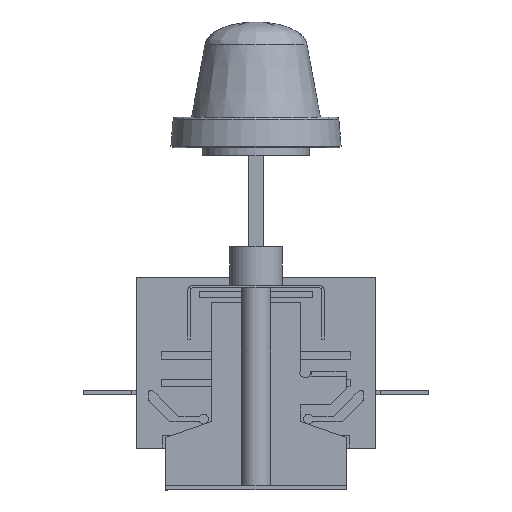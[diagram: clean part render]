
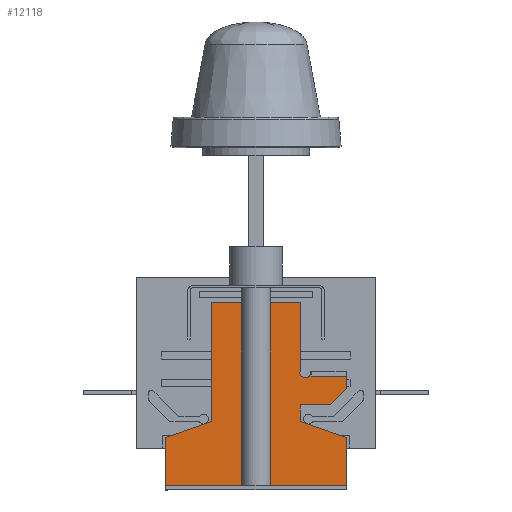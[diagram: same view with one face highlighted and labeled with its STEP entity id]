
A CAD part, left-side view. The second image highlights one B-rep face of the part: STEP entity #12118.
In plain terms, the highlighted planar face has unit normal (-1, 0, 0).
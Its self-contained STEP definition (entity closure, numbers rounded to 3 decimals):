
#229 = CARTESIAN_POINT ( 'NONE',  ( -57.263, 37.1, 21.5 ) ) ;
#266 = VERTEX_POINT ( 'NONE', #2958 ) ;
#305 = LINE ( 'NONE', #13591, #13586 ) ;
#435 = EDGE_CURVE ( 'NONE', #12203, #3188, #5823, .T. ) ;
#493 = DIRECTION ( 'NONE',  ( 0., 1., 0. ) ) ;
#607 = CARTESIAN_POINT ( 'NONE',  ( -57.263, -22.476, 48.8 ) ) ;
#729 = VERTEX_POINT ( 'NONE', #1036 ) ;
#736 = ORIENTED_EDGE ( 'NONE', *, *, #3151, .T. ) ;
#865 = DIRECTION ( 'NONE',  ( 0., 0., 1. ) ) ;
#1020 = VECTOR ( 'NONE', #2152, 1000. ) ;
#1026 = ORIENTED_EDGE ( 'NONE', *, *, #8765, .T. ) ;
#1036 = CARTESIAN_POINT ( 'NONE',  ( -57.263, -18.1, 48.8 ) ) ;
#1365 = DIRECTION ( 'NONE',  ( 0., 0.943, -0.333 ) ) ;
#1802 = EDGE_CURVE ( 'NONE', #14907, #12492, #14151, .T. ) ;
#1865 = AXIS2_PLACEMENT_3D ( 'NONE', #7023, #16035, #9621 ) ;
#2047 = DIRECTION ( 'NONE',  ( 0., -1., 0. ) ) ;
#2152 = DIRECTION ( 'NONE',  ( 0., -1., 0. ) ) ;
#2638 = VERTEX_POINT ( 'NONE', #3204 ) ;
#2644 = LINE ( 'NONE', #6204, #14310 ) ;
#2731 = VERTEX_POINT ( 'NONE', #9630 ) ;
#2844 = LINE ( 'NONE', #12965, #10108 ) ;
#2958 = CARTESIAN_POINT ( 'NONE',  ( -57.263, -18.1, 77.06 ) ) ;
#2979 = EDGE_CURVE ( 'NONE', #2731, #10522, #3650, .T. ) ;
#3051 = FACE_OUTER_BOUND ( 'NONE', #3451, .T. ) ;
#3131 = CARTESIAN_POINT ( 'NONE',  ( -57.263, -22.476, 48.8 ) ) ;
#3151 = EDGE_CURVE ( 'NONE', #12492, #10460, #12326, .T. ) ;
#3188 = VERTEX_POINT ( 'NONE', #607 ) ;
#3204 = CARTESIAN_POINT ( 'NONE',  ( -57.263, 37.1, 21.5 ) ) ;
#3259 = VECTOR ( 'NONE', #2047, 1000. ) ;
#3284 = CARTESIAN_POINT ( 'NONE',  ( -57.263, -18.1, 28.2 ) ) ;
#3291 = LINE ( 'NONE', #6433, #7337 ) ;
#3336 = CIRCLE ( 'NONE', #1865, 2.24 ) ;
#3446 = VECTOR ( 'NONE', #6906, 1000. ) ;
#3451 = EDGE_LOOP ( 'NONE', ( #6904, #10612, #13923, #15524, #12056, #14040, #16570, #7048, #6900, #14031, #736, #1026, #6586, #6189, #6843, #16645 ) ) ;
#3478 = DIRECTION ( 'NONE',  ( 0., 1., 0. ) ) ;
#3650 = LINE ( 'NONE', #13967, #13728 ) ;
#3718 = VERTEX_POINT ( 'NONE', #7696 ) ;
#3735 = CARTESIAN_POINT ( 'NONE',  ( -57.263, -20.288, 48.32 ) ) ;
#4273 = CARTESIAN_POINT ( 'NONE',  ( -57.263, 37.1, 2. ) ) ;
#4296 = DIRECTION ( 'NONE',  ( 0., 0., 1. ) ) ;
#4537 = DIRECTION ( 'NONE',  ( 0., 1., 0. ) ) ;
#4641 = LINE ( 'NONE', #13608, #7465 ) ;
#4817 = VECTOR ( 'NONE', #3478, 1000. ) ;
#5087 = VERTEX_POINT ( 'NONE', #8474 ) ;
#5174 = CARTESIAN_POINT ( 'NONE',  ( -57.263, -37.1, 41.8 ) ) ;
#5381 = DIRECTION ( 'NONE',  ( 0., 0., -1. ) ) ;
#5648 = DIRECTION ( 'NONE',  ( 0., 0., 1. ) ) ;
#5694 = VECTOR ( 'NONE', #865, 1000. ) ;
#5787 = CARTESIAN_POINT ( 'NONE',  ( -57.263, -37.1, 46.8 ) ) ;
#5823 = LINE ( 'NONE', #3131, #4817 ) ;
#6140 = VERTEX_POINT ( 'NONE', #12636 ) ;
#6189 = ORIENTED_EDGE ( 'NONE', *, *, #11738, .T. ) ;
#6204 = CARTESIAN_POINT ( 'NONE',  ( -57.263, -18.1, 48.8 ) ) ;
#6411 = EDGE_CURVE ( 'NONE', #10522, #2638, #3291, .T. ) ;
#6433 = CARTESIAN_POINT ( 'NONE',  ( -57.263, 18.1, 28.2 ) ) ;
#6586 = ORIENTED_EDGE ( 'NONE', *, *, #7620, .T. ) ;
#6596 = CARTESIAN_POINT ( 'NONE',  ( -57.263, -22.8, 48.8 ) ) ;
#6644 = VECTOR ( 'NONE', #4296, 1000. ) ;
#6843 = ORIENTED_EDGE ( 'NONE', *, *, #8396, .T. ) ;
#6900 = ORIENTED_EDGE ( 'NONE', *, *, #12575, .T. ) ;
#6904 = ORIENTED_EDGE ( 'NONE', *, *, #12249, .T. ) ;
#6906 = DIRECTION ( 'NONE',  ( 0., 0.943, 0.333 ) ) ;
#7023 = CARTESIAN_POINT ( 'NONE',  ( -57.263, -20.288, 48.32 ) ) ;
#7048 = ORIENTED_EDGE ( 'NONE', *, *, #12776, .T. ) ;
#7163 = VECTOR ( 'NONE', #4537, 1000. ) ;
#7337 = VECTOR ( 'NONE', #1365, 1000. ) ;
#7465 = VECTOR ( 'NONE', #493, 1000. ) ;
#7620 = EDGE_CURVE ( 'NONE', #5087, #3718, #11910, .T. ) ;
#7696 = CARTESIAN_POINT ( 'NONE',  ( -57.263, -30.7, 35. ) ) ;
#7819 = EDGE_CURVE ( 'NONE', #729, #266, #2644, .T. ) ;
#7867 = LINE ( 'NONE', #12582, #1020 ) ;
#8279 = EDGE_CURVE ( 'NONE', #266, #2731, #4641, .T. ) ;
#8396 = EDGE_CURVE ( 'NONE', #11173, #6140, #10082, .T. ) ;
#8474 = CARTESIAN_POINT ( 'NONE',  ( -57.263, -18.1, 35. ) ) ;
#8590 = CARTESIAN_POINT ( 'NONE',  ( -57.263, -37.1, 0. ) ) ;
#8680 = VECTOR ( 'NONE', #5381, 1000. ) ;
#8765 = EDGE_CURVE ( 'NONE', #10460, #5087, #11668, .T. ) ;
#8944 = CARTESIAN_POINT ( 'NONE',  ( -57.263, -18.1, 28.2 ) ) ;
#9475 = LINE ( 'NONE', #229, #8680 ) ;
#9621 = DIRECTION ( 'NONE',  ( 0., -1., 0. ) ) ;
#9630 = CARTESIAN_POINT ( 'NONE',  ( -57.263, 18.1, 77.06 ) ) ;
#9669 = DIRECTION ( 'NONE',  ( 0., -0.685, 0.728 ) ) ;
#10082 = LINE ( 'NONE', #11958, #6644 ) ;
#10108 = VECTOR ( 'NONE', #11773, 1000. ) ;
#10460 = VERTEX_POINT ( 'NONE', #8944 ) ;
#10483 = VERTEX_POINT ( 'NONE', #15502 ) ;
#10522 = VERTEX_POINT ( 'NONE', #11950 ) ;
#10587 = LINE ( 'NONE', #5787, #7163 ) ;
#10612 = ORIENTED_EDGE ( 'NONE', *, *, #435, .T. ) ;
#10800 = CARTESIAN_POINT ( 'NONE',  ( -57.263, -37.1, 21.5 ) ) ;
#10897 = CARTESIAN_POINT ( 'NONE',  ( -57.263, -37.1, 21.5 ) ) ;
#11173 = VERTEX_POINT ( 'NONE', #5174 ) ;
#11217 = VERTEX_POINT ( 'NONE', #4273 ) ;
#11406 = DIRECTION ( 'NONE',  ( 0., -1., 0. ) ) ;
#11459 = PLANE ( 'NONE',  #15946 ) ;
#11488 = VECTOR ( 'NONE', #5648, 1000. ) ;
#11668 = LINE ( 'NONE', #3284, #11488 ) ;
#11738 = EDGE_CURVE ( 'NONE', #3718, #11173, #305, .T. ) ;
#11773 = DIRECTION ( 'NONE',  ( 0., 0., 1. ) ) ;
#11910 = LINE ( 'NONE', #16058, #3259 ) ;
#11950 = CARTESIAN_POINT ( 'NONE',  ( -57.263, 18.1, 28.2 ) ) ;
#11958 = CARTESIAN_POINT ( 'NONE',  ( -57.263, -37.1, 48.8 ) ) ;
#12056 = ORIENTED_EDGE ( 'NONE', *, *, #8279, .T. ) ;
#12118 = ADVANCED_FACE ( 'NONE', ( #3051 ), #11459, .T. ) ;
#12156 = CARTESIAN_POINT ( 'NONE',  ( -57.263, -37.1, 2. ) ) ;
#12203 = VERTEX_POINT ( 'NONE', #6596 ) ;
#12249 = EDGE_CURVE ( 'NONE', #10483, #12203, #2844, .T. ) ;
#12326 = LINE ( 'NONE', #10800, #3446 ) ;
#12492 = VERTEX_POINT ( 'NONE', #10897 ) ;
#12575 = EDGE_CURVE ( 'NONE', #11217, #14907, #7867, .T. ) ;
#12581 = DIRECTION ( 'NONE',  ( 0., 0., 1. ) ) ;
#12582 = CARTESIAN_POINT ( 'NONE',  ( -57.263, -37.1, 2. ) ) ;
#12636 = CARTESIAN_POINT ( 'NONE',  ( -57.263, -37.1, 46.8 ) ) ;
#12776 = EDGE_CURVE ( 'NONE', #2638, #11217, #9475, .T. ) ;
#12787 = DIRECTION ( 'NONE',  ( 0., 0., -1. ) ) ;
#12965 = CARTESIAN_POINT ( 'NONE',  ( -57.263, -22.8, 46.8 ) ) ;
#13586 = VECTOR ( 'NONE', #9669, 1000. ) ;
#13591 = CARTESIAN_POINT ( 'NONE',  ( -57.263, -30.7, 35. ) ) ;
#13608 = CARTESIAN_POINT ( 'NONE',  ( -57.263, -18.1, 77.06 ) ) ;
#13728 = VECTOR ( 'NONE', #12787, 1000. ) ;
#13923 = ORIENTED_EDGE ( 'NONE', *, *, #16647, .T. ) ;
#13967 = CARTESIAN_POINT ( 'NONE',  ( -57.263, 18.1, 77.06 ) ) ;
#13981 = DIRECTION ( 'NONE',  ( -1., 0., 0. ) ) ;
#14031 = ORIENTED_EDGE ( 'NONE', *, *, #1802, .T. ) ;
#14040 = ORIENTED_EDGE ( 'NONE', *, *, #2979, .T. ) ;
#14151 = LINE ( 'NONE', #8590, #5694 ) ;
#14310 = VECTOR ( 'NONE', #12581, 1000. ) ;
#14907 = VERTEX_POINT ( 'NONE', #12156 ) ;
#15502 = CARTESIAN_POINT ( 'NONE',  ( -57.263, -22.8, 46.8 ) ) ;
#15524 = ORIENTED_EDGE ( 'NONE', *, *, #7819, .T. ) ;
#15946 = AXIS2_PLACEMENT_3D ( 'NONE', #3735, #13981, #11406 ) ;
#16035 = DIRECTION ( 'NONE',  ( 1., 0., 0. ) ) ;
#16058 = CARTESIAN_POINT ( 'NONE',  ( -57.263, -18.1, 35. ) ) ;
#16570 = ORIENTED_EDGE ( 'NONE', *, *, #6411, .T. ) ;
#16598 = EDGE_CURVE ( 'NONE', #6140, #10483, #10587, .T. ) ;
#16645 = ORIENTED_EDGE ( 'NONE', *, *, #16598, .T. ) ;
#16647 = EDGE_CURVE ( 'NONE', #3188, #729, #3336, .T. ) ;
